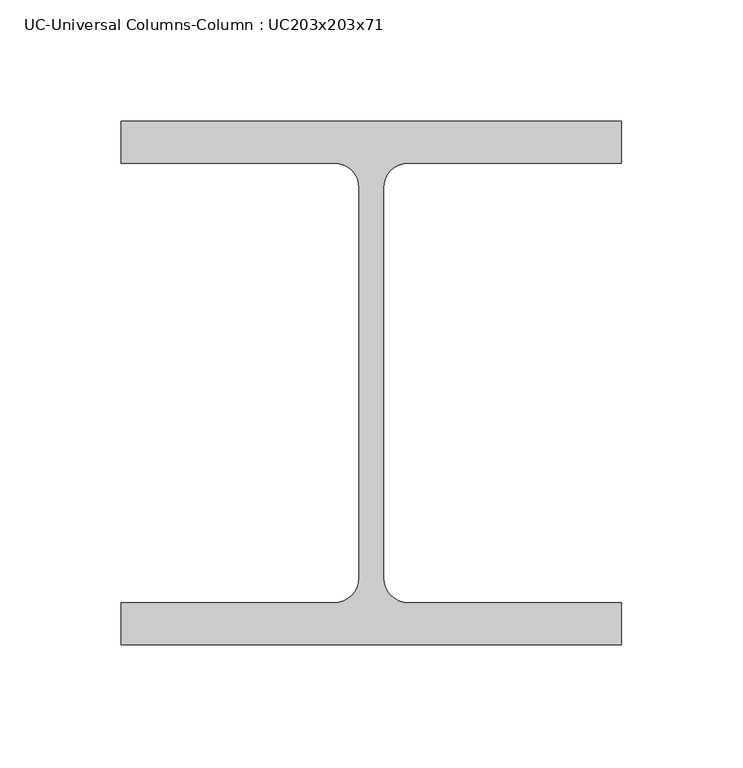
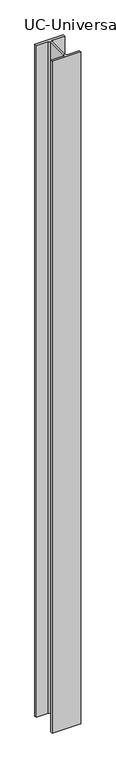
"""IFC4 building model written with IfcOpenShell, lengths in millimetres: column geometry, UC-Universal Columns-Column : UC203x203x71."""

from ifc_helpers import new_model, si_unit, point, frame, frame_2d, origin, place, context, project, spatial, polyline, circle_curve, trimmed, segment, composite_curve, outline, extrude, source, transform, mapped, element, save


def uc_universal_columns_column_uc203x203x71_e4823124(model_context):
    return source(origin(), model_context, "Body", "SweptSolid", [
        extrude(outline(composite_curve([segment(polyline([(103.2, 107.9), (103.2, 90.6), (15.2, 90.6)]), True, "CONTINUOUS"), segment(trimmed(circle_curve(frame_2d((15.2, 80.4)), 10.2), [point((15.2, 90.6))], [point((5.0, 80.4))], True, "CARTESIAN"), True, "CONTINUOUS"), segment(polyline([(5.0, 80.4), (5.0, -80.4)]), True, "CONTINUOUS"), segment(trimmed(circle_curve(frame_2d((15.2, -80.4)), 10.2), [point((5.0, -80.4))], [point((15.2, -90.6))], True, "CARTESIAN"), True, "CONTINUOUS"), segment(polyline([(15.2, -90.6), (103.2, -90.6), (103.2, -107.9), (-103.2, -107.9), (-103.2, -90.6), (-15.2, -90.6)]), True, "CONTINUOUS"), segment(trimmed(circle_curve(frame_2d((-15.2, -80.4)), 10.2), [point((-15.2, -90.6))], [point((-5.0, -80.4))], True, "CARTESIAN"), True, "CONTINUOUS"), segment(polyline([(-5.0, -80.4), (-5.0, 80.4)]), True, "CONTINUOUS"), segment(trimmed(circle_curve(frame_2d((-15.2, 80.4)), 10.2), [point((-5.0, 80.4))], [point((-15.2, 90.6))], True, "CARTESIAN"), True, "CONTINUOUS"), segment(polyline([(-15.2, 90.6), (-103.2, 90.6), (-103.2, 107.9), (103.2, 107.9)]), True, "CONTINUOUS")], self_intersect=False)), frame((0.0, 0.0, -450.0), z_axis=(0.0, 0.0, 1.0), x_axis=(1.0, 0.0, 0.0)), (0.0, 0.0, 1.0), 5145.0),
    ])


if __name__ == "__main__":
    model = new_model("IFC4")
    model_context = context("Model", 3, world=origin())
    ifc_project = project(units=[si_unit("LENGTHUNIT", "METRE", prefix="MILLI")], contexts=[model_context])
    site = spatial("IfcSite", under=ifc_project)
    building = spatial("IfcBuilding", under=site)
    placement = place(None, origin())
    uc_universal_columns_column_uc203x203x71_shape = uc_universal_columns_column_uc203x203x71_e4823124(model_context)
    element("IfcColumn", 1, ObjectType="UC-Universal Columns-Column : UC203x203x71", at=placement, inside=building, context=model_context, shape_type="MappedRepresentation", body=[
        mapped(uc_universal_columns_column_uc203x203x71_shape, transform((0.0, 0.0, 0.0), x_axis=(1.0, 0.0, 0.0), y_axis=(0.0, 1.0, 0.0), z_axis=(0.0, 0.0, 1.0))),
    ])
    save(model, "model.ifc")
